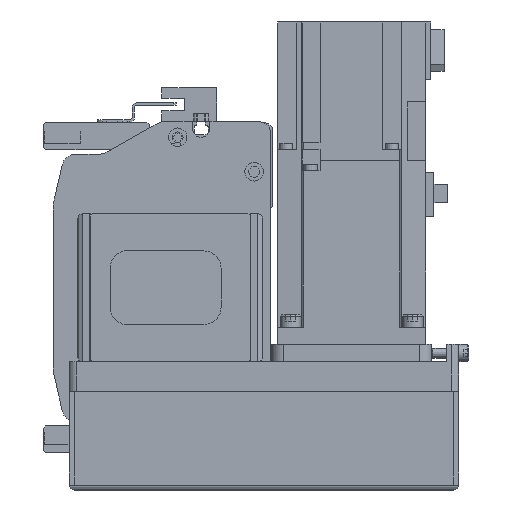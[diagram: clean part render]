
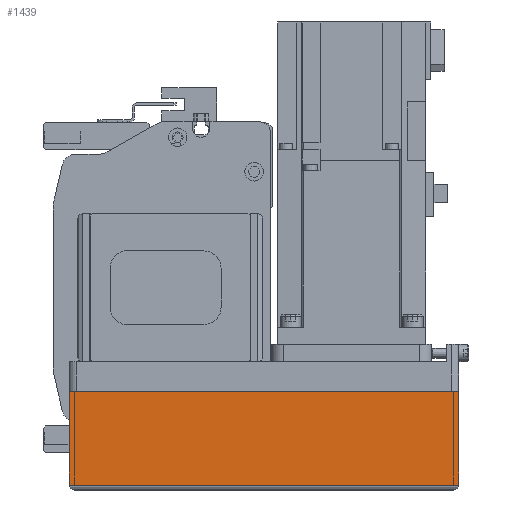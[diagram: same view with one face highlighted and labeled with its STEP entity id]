
A CAD part, left-side view. The second image highlights one B-rep face of the part: STEP entity #1439.
In plain terms, the highlighted planar face has unit normal (-1, 0, 0) as drawn and (0, 1, 0) by its records, which use the part's own axes.
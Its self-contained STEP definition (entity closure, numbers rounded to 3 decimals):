
#1439 = ADVANCED_FACE( '', ( #3816 ), #3817, .T. );
#3816 = FACE_OUTER_BOUND( '', #7506, .T. );
#3817 = PLANE( '', #7507 );
#7506 = EDGE_LOOP( '', ( #11648, #11649, #11650, #11651 ) );
#7507 = AXIS2_PLACEMENT_3D( '', #11652, #11653, #11654 );
#11648 = ORIENTED_EDGE( '', *, *, #21026, .F. );
#11649 = ORIENTED_EDGE( '', *, *, #21080, .F. );
#11650 = ORIENTED_EDGE( '', *, *, #21081, .T. );
#11651 = ORIENTED_EDGE( '', *, *, #21082, .T. );
#11652 = CARTESIAN_POINT( '', ( -158., 39., -50. ) );
#11653 = DIRECTION( '', ( 0., 1., 0. ) );
#11654 = DIRECTION( '', ( 0., 0., 1. ) );
#21026 = EDGE_CURVE( '', #24586, #25102, #25103, .T. );
#21080 = EDGE_CURVE( '', #25192, #24586, #25193, .T. );
#21081 = EDGE_CURVE( '', #25192, #25194, #25195, .T. );
#21082 = EDGE_CURVE( '', #25194, #25102, #25196, .T. );
#24586 = VERTEX_POINT( '', #30268 );
#25102 = VERTEX_POINT( '', #31016 );
#25103 = LINE( '', #31017, #31018 );
#25192 = VERTEX_POINT( '', #31158 );
#25193 = LINE( '', #31159, #31160 );
#25194 = VERTEX_POINT( '', #31161 );
#25195 = LINE( '', #31162, #31163 );
#25196 = LINE( '', #31164, #31165 );
#30268 = CARTESIAN_POINT( '', ( 0., 39., -50. ) );
#31016 = CARTESIAN_POINT( '', ( 0., 39., -12.1 ) );
#31017 = CARTESIAN_POINT( '', ( 0., 39., -50. ) );
#31018 = VECTOR( '', #39292, 1000. );
#31158 = CARTESIAN_POINT( '', ( -158., 39., -50. ) );
#31159 = CARTESIAN_POINT( '', ( -158., 39., -50. ) );
#31160 = VECTOR( '', #39356, 1000. );
#31161 = CARTESIAN_POINT( '', ( -158., 39., -12.1 ) );
#31162 = CARTESIAN_POINT( '', ( -158., 39., -50. ) );
#31163 = VECTOR( '', #39357, 1000. );
#31164 = CARTESIAN_POINT( '', ( -158., 39., -12.1 ) );
#31165 = VECTOR( '', #39358, 1000. );
#39292 = DIRECTION( '', ( 0., 0., 1. ) );
#39356 = DIRECTION( '', ( 1., 0., 0. ) );
#39357 = DIRECTION( '', ( 0., 0., 1. ) );
#39358 = DIRECTION( '', ( 1., 0., 0. ) );
